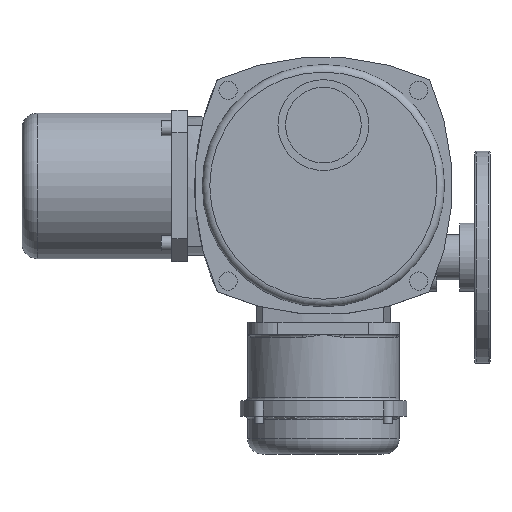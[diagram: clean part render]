
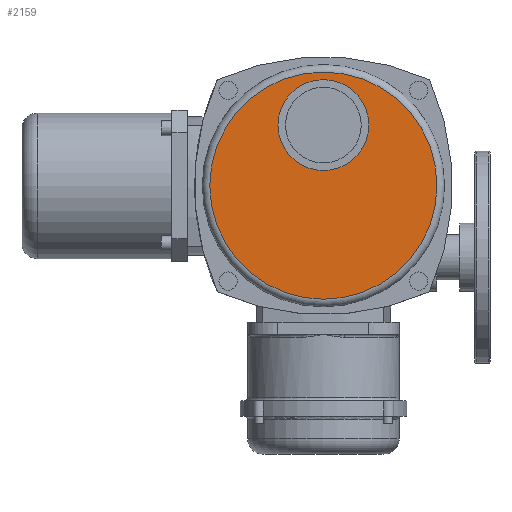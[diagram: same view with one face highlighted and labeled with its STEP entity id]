
A CAD part, top view. The second image highlights one B-rep face of the part: STEP entity #2159.
In plain terms, the highlighted planar face has unit normal (0, 0, 1).
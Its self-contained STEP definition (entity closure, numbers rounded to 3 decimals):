
#2159=ADVANCED_FACE('',(#4674,#4676),#4678,.T.);
#4674=FACE_BOUND('',#4675,.T.);
#4675=EDGE_LOOP('',(#5787));
#4676=FACE_BOUND('',#4677,.T.);
#4677=EDGE_LOOP('',(#5788));
#4678=PLANE('',#4679);
#4679=AXIS2_PLACEMENT_3D('',#4680,#4681,#4682);
#4680=CARTESIAN_POINT('',(0.,0.,60.));
#4681=DIRECTION('',(0.,0.,1.));
#4682=DIRECTION('',(1.,0.,0.));
#5787=ORIENTED_EDGE('',*,*,#6267,.T.);
#5788=ORIENTED_EDGE('',*,*,#6310,.F.);
#6267=EDGE_CURVE('',#7079,#7079,#7080,.T.);
#6310=EDGE_CURVE('',#7147,#7147,#7148,.T.);
#7079=VERTEX_POINT('',#10048);
#7080=CIRCLE('',#10049,75.);
#7147=VERTEX_POINT('',#10241);
#7148=CIRCLE('',#10242,30.);
#10048=CARTESIAN_POINT('',(75.,0.,60.));
#10049=AXIS2_PLACEMENT_3D('',#10050,#10051,#10052);
#10050=CARTESIAN_POINT('',(0.,0.,60.));
#10051=DIRECTION('',(0.,0.,1.));
#10052=DIRECTION('',(1.,0.,0.));
#10241=CARTESIAN_POINT('',(30.,40.,60.));
#10242=AXIS2_PLACEMENT_3D('',#10243,#10244,#10245);
#10243=CARTESIAN_POINT('',(0.,40.,60.));
#10244=DIRECTION('',(0.,0.,1.));
#10245=DIRECTION('',(1.,0.,0.));
